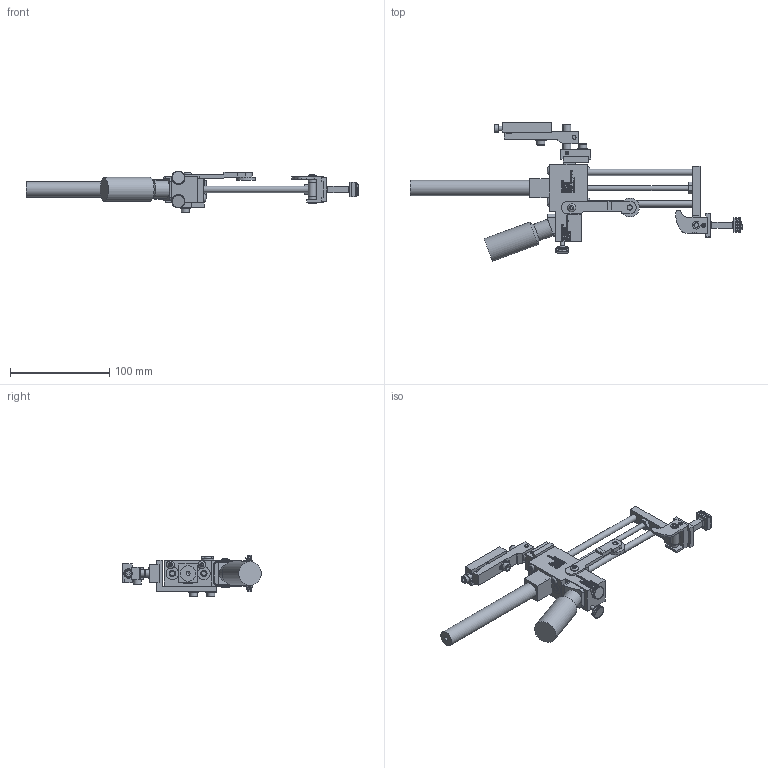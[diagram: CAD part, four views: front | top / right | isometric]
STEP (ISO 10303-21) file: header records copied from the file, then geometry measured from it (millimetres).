
FILE_DESCRIPTION((''),'2;1');
FILE_NAME('C:\Documents and Settings\Ron\My Documents\Inventor\Sprinter Drawing\Machines in Inventor\Model 66\Type\Ext Hd 1in\Brkt\Ext\Model 66 Ext HD 1in type Ext w brkt mod 2012.stp','2012-02-29T07:54:03',('Ron'),(''),'Autodesk Inventor 2011','Autodesk Inventor 2011','');
FILE_SCHEMA(('AUTOMOTIVE_DESIGN { 1 0 10303 214 1 1 1 1 }'));
Length unit declared in the file: inch
Products named in the file (44): Model 66 Ext HD 1in type Ext w brkt mod 2012; 66 Frame Body Assy Ext w brkt; 66 Frame Body; Hexagon Socket Button Head Cap Screw - Inch 8 - 32 x 1/4; Hexagon Socket Head Cap Screw - Inch No. 8 - 32 UNC - 1 1/2; 66 Linear Bearing; 66 Ink; 66 INK BOTTLE; 66 Ink Pad; 66-15-EH1 Whl Brk Arm; 8-32x0.25 Hexagon Socket Button Head Cap Screw ANSI/ASME B18.3; 44 Cam Wheel; 44 Wheel Retainer; 10 Ink Resevior Lock Screw; Model 66 Bracket; Model 66 RPB; rpb4; rpb3; rpb-1; rpb2; No. 10-24x0.88 Hexagon socket head cap screw ANSI/ASME B18.3; Type B - Plain Washer (Inch) No. 10 - narrow - Type B; 66 Machine Mounting Pivot Bracket; Pin - Hardened Ground Machine Dowel (Inch) 1/8 x 3/8; Rod Carrier Standard Ext EH 1in; Model 66, EH1 std .25 x 6; Rod Carrier Extended Ext Head; 66 Rod Carrier; Type A - Hexagon Socket Set Screw - Cup Point - Inch 8-32 UNC x 0.32; 66 PIVOT SHAFT; 66 PIVOT SHAFT LOCKING RING; 23 66 invert block; AS 1112 (4)  - Metric M6; 66 Spring; 19 Rod Carrier Set Screws; 44 & up Removable Marking Head Securing Post; Hexagon Socket Set Screw - Flat Point - Inch 6-32 UNC x 0.45; 66 EH1 66 STAMP HEAD; 66 EH-1 marking head plate; 66-28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
Assembly tree (61 placements, depth 5):
  Model 66 Ext HD 1in type Ext w brkt mod 2012
    66 Frame Body Assy Ext w brkt
      66 Frame Body
      Hexagon Socket Button Head Cap Screw - Inch 8 - 32 x 1/4  x4
      Hexagon Socket Head Cap Screw - Inch No. 8 - 32 UNC - 1 1/2  x2
      66 Linear Bearing  x2
      66 Ink
      66 INK BOTTLE
      66 Ink Pad
      66-15-EH1 Whl Brk Arm
      8-32x0.25 Hexagon Socket Button Head Cap Screw ANSI/ASME B18.3
      44 Cam Wheel
      44 Wheel Retainer
      10 Ink Resevior Lock Screw  x2
      Model 66 Bracket
        Model 66 RPB
          rpb4
          rpb3
          rpb-1
          rpb2
          No. 10-24x0.88 Hexagon socket head cap screw ANSI/ASME B18.3  x5
          Type B - Plain Washer (Inch) No. 10 - narrow - Type B  x4
          66 Machine Mounting Pivot Bracket
          Pin - Hardened Ground Machine Dowel (Inch) 1/8 x 3/8  x2
    Rod Carrier Standard Ext EH 1in
      Model 66, EH1 std .25 x 6  x2
      Rod Carrier Extended Ext Head
        66 Rod Carrier
        Type A - Hexagon Socket Set Screw - Cup Point - Inch 8-32 UNC x 0.32
        66 PIVOT SHAFT
        66 PIVOT SHAFT LOCKING RING  x2
        23 66 invert block
        AS 1112 (4)  - Metric M6
        66 Spring
        19 Rod Carrier Set Screws  x2
        44 & up Removable Marking Head Securing Post
        Hexagon Socket Set Screw - Flat Point - Inch 6-32 UNC x 0.45
        66 EH1 66 STAMP HEAD
          44 & up Removable Marking Head Securing Post
          66 EH-1 marking head plate
          66-28
          Part # 28 - 66 stamp
        Hexagon Socket Set Screw - Flat Point - Inch 8-32 UNC x 0.32
    EH1 ext std
    10-32 PORTS DECAL
Bounding box: 334.57 x 139.56 x 42.07 mm (x, y, z)
Volume: 177747.2 mm3; surface area: 92356.8 mm2
Topology: 428 solids, 428 shells, 6378 faces, 15637 edges, 9684 vertices
Faces by surface type: plane 4398, bspline 1301, cylinder 572, cone 84, torus 23
Full cylindrical faces by diameter (mm): 1.575 x1, 2.54 x2, 2.642 x3, 3.175 x4, 3.2 x1, 3.302 x12, 3.505 x1, 3.683 x2, 3.962 x12, 4.064 x2, 4.166 x11, 4.318 x2, 4.699 x3, 4.75 x3, 4.775 x2, 4.826 x8, 4.864 x2, 4.917 x1, 5.08 x2, 5.156 x7, 5.182 x1, 5.359 x1, 5.556 x1, 6.325 x2, 6.35 x7, 6.426 x1, 6.604 x1, 6.858 x2, 7.353 x4, 7.62 x2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
Entity records: 152405 total; most frequent: CARTESIAN_POINT 45309, ORIENTED_EDGE 23666, DIRECTION 17058, EDGE_CURVE 11833, VECTOR 8398, LINE 8398, VERTEX_POINT 7589, EDGE_LOOP 5280
